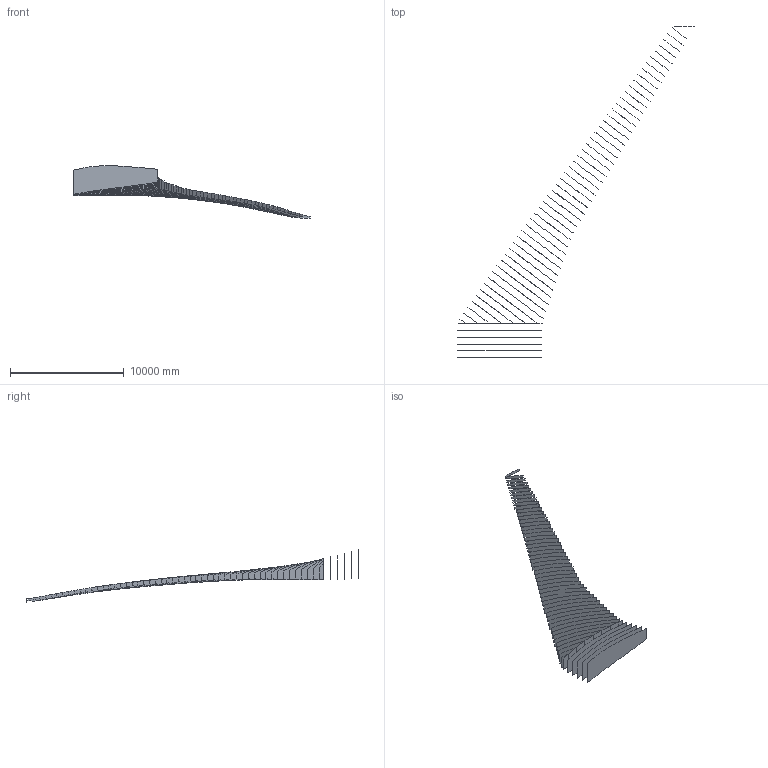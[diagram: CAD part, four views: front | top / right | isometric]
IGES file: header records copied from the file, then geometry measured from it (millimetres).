
Global section: file name: E:\temp\CRM_ribs.igs; native system: NX V8.5; preprocessor: SIEMENS PLM Software NX 8.5; date: 20140115.094602; units: inch
Bounding box: 20837.22 x 29241.83 x 4627.82 mm (x, y, z)
Surface area: 190890737.8 mm2 (no closed solid volume)
Topology: 0 solids, 0 shells, 58 faces, 1076 edges, 1076 vertices
Faces by surface type: bspline 58
